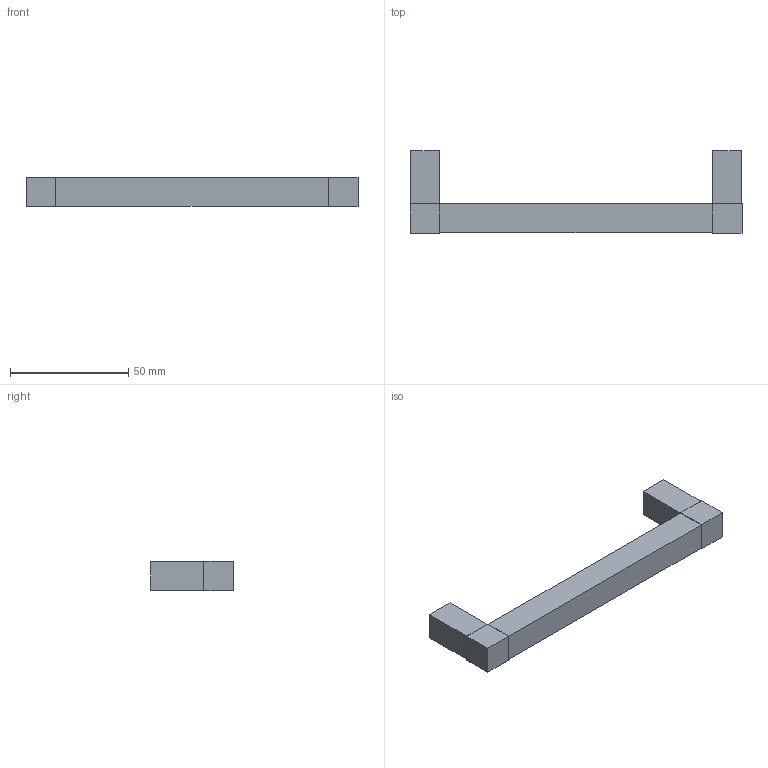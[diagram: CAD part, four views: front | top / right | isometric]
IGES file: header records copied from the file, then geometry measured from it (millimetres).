
Start section: Data from Parasolid IGES Translator 20.0.26, Copyright(c) 2006 Siemens P LM Software. All Rights Reserved.
Global section: file name: 9298816.igs; native system: By Siemens PLM Incorporated; preprocessor: XPlus GENERIC/IGES 20.0.26; author: Noname; organization: Noname; date: 20210825.155652; units: millimetre
Bounding box: 140.5 x 35.05 x 12.5 mm (x, y, z)
Surface area: 9370.1 mm2 (no closed solid volume)
Topology: 0 solids, 0 shells, 26 faces, 120 edges, 120 vertices
Faces by surface type: extrusion 26
